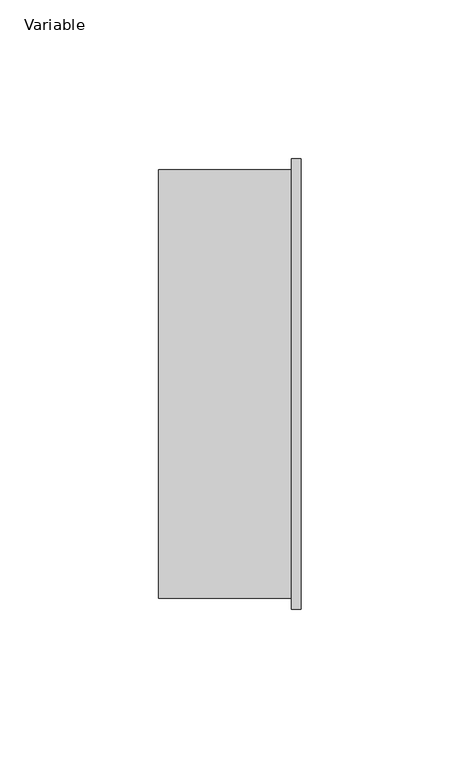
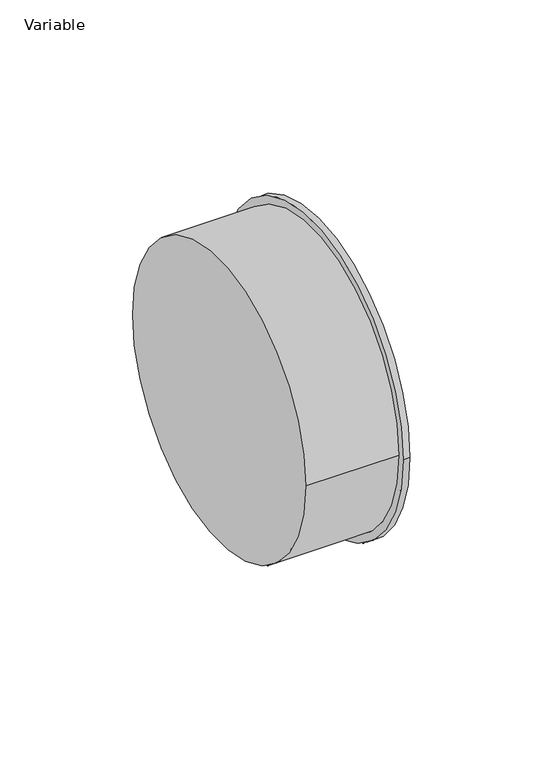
"""IFC4 building model written with IfcOpenShell, lengths in millimetres: pipe fitting geometry, AliaxisFR_Friaphon_Cap_FR : Variable."""

from ifc_helpers import new_model, si_unit, frame, origin, place, context, project, spatial, circle_curve, source, transform, mapped, element, save
from ifc_brep_helpers import plane_surface, cylinder_surface, advanced_brep


def variable_11fd8723(model_context):
    return source(origin(), model_context, "Body", "AdvancedBrep", [
        advanced_brep(
        [(26.0, -67.5, 0.0), (26.0, 67.5, 0.0), (71.0, -71.0, 0.0), (71.0, 71.0, 0.0), (68.0, -71.0, 0.0), (68.0, 71.0, 0.0), (68.0, -67.5, 0.0), (68.0, 67.5, 0.0)],
        [
            (0, 1, circle_curve(frame((26.0, 0.0, 0.0), z_axis=(-1.0, 0.0, 0.0), x_axis=(0.0, 1.0, 0.0)), 67.5)),
            (1, 0, circle_curve(frame((26.0, 0.0, 0.0), z_axis=(-1.0, 0.0, 0.0), x_axis=(0.0, 1.0, 0.0)), 67.5)),
            (2, 3, circle_curve(frame((71.0, 0.0, 0.0), z_axis=(1.0, 0.0, 0.0), x_axis=(0.0, 1.0, 0.0)), 71.0)),
            (3, 2, circle_curve(frame((71.0, 0.0, 0.0), z_axis=(1.0, 0.0, 0.0), x_axis=(0.0, 1.0, 0.0)), 71.0)),
            (4, 5, circle_curve(frame((68.0, 0.0, 0.0), z_axis=(-1.0, 0.0, 0.0), x_axis=(0.0, 1.0, 0.0)), 71.0)),
            (5, 4, circle_curve(frame((68.0, 0.0, 0.0), z_axis=(-1.0, 0.0, 0.0), x_axis=(0.0, 1.0, 0.0)), 71.0)),
            (6, 7, circle_curve(frame((68.0, 0.0, 0.0), z_axis=(1.0, 0.0, 0.0), x_axis=(0.0, 1.0, 0.0)), 67.5)),
            (7, 6, circle_curve(frame((68.0, 0.0, 0.0), z_axis=(1.0, 0.0, 0.0), x_axis=(0.0, 1.0, 0.0)), 67.5)),
            (2, 4),
            (5, 3),
            (1, 7),
            (6, 0),
        ],
        [
            plane_surface(frame((26.0, 67.5, 0.0), z_axis=(-1.0, 0.0, 0.0), x_axis=(0.0, 0.0, -1.0))),
            plane_surface(frame((71.0, 71.0, 0.0), z_axis=(1.0, 0.0, 0.0), x_axis=(0.0, 0.0, 1.0))),
            plane_surface(frame((68.0, 71.0, 0.0), z_axis=(-1.0, 0.0, 0.0), x_axis=(0.0, 0.0, -1.0))),
            cylinder_surface(frame((68.0, 0.0, 0.0), z_axis=(1.0, 0.0, 0.0), x_axis=(0.0, 1.0, 0.0)), 71.0),
            cylinder_surface(frame((26.0, 0.0, 0.0), z_axis=(1.0, 0.0, 0.0), x_axis=(0.0, 1.0, 0.0)), 67.5),
        ],
        [
            (0, [[1, 2]]),
            (1, [[3, 4]]),
            (2, [[5, 6], [7, 8]]),
            (3, [[-3, 9, -6, 10]]),
            (3, [[-4, -10, -5, -9]]),
            (4, [[-2, 11, -7, 12]]),
            (4, [[-1, -12, -8, -11]]),
        ],
    ),
    ])


if __name__ == "__main__":
    model = new_model("IFC4")
    model_context = context("Model", 3, world=origin())
    ifc_project = project(units=[si_unit("LENGTHUNIT", "METRE", prefix="MILLI")], contexts=[model_context])
    site = spatial("IfcSite", under=ifc_project)
    building = spatial("IfcBuilding", under=site)
    placement = place(None, origin())
    variable_shape = variable_11fd8723(model_context)
    element("IfcPipeFitting", 1, ObjectType="AliaxisFR_Friaphon_Cap_FR : Variable", at=placement, inside=building, context=model_context, shape_type="MappedRepresentation", body=[
        mapped(variable_shape, transform((0.0, 0.0, 0.0), x_axis=(1.0, 0.0, 0.0), y_axis=(0.0, 1.0, 0.0), z_axis=(0.0, 0.0, 1.0))),
    ])
    save(model, "model.ifc")
